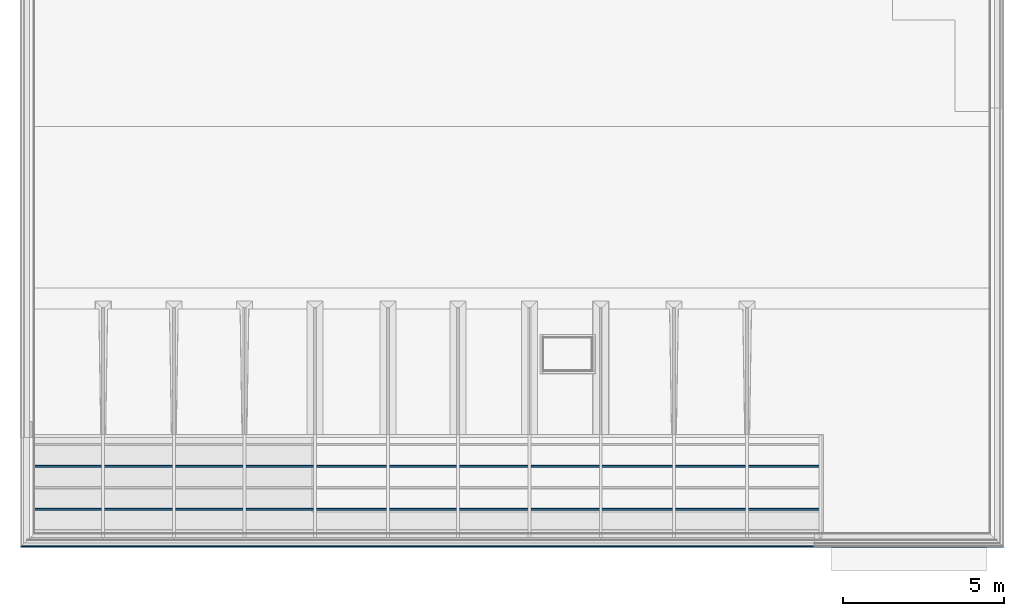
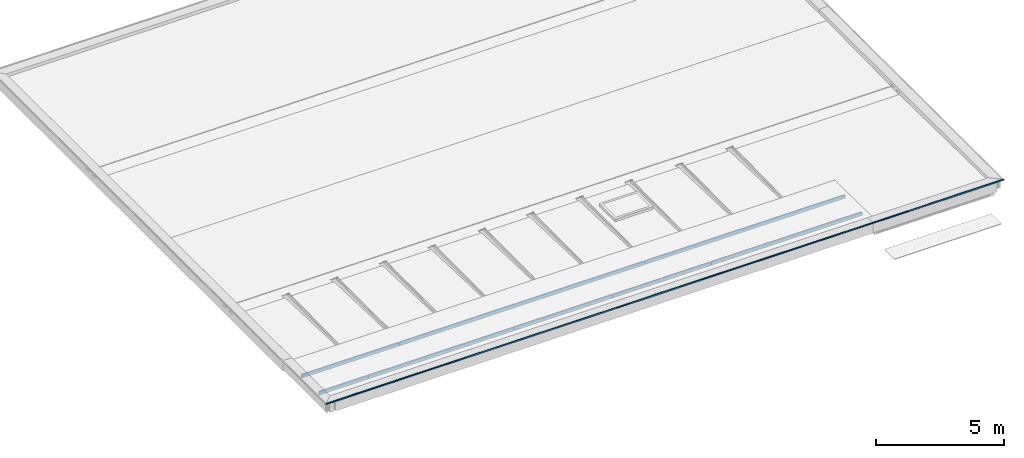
# One storey, part 2 of 16: 3 beams.
"""IFC2X3 building model written with IfcOpenShell, lengths in millimetres."""

from ifc_helpers import new_model, entity, si_unit, converted_unit, derived_unit, money_unit, direction, frame, origin_with_axes, place, context, subcontext, project, spatial, faceted_brep, material, type_object, element, save


model = new_model("IFC2X3")

# Units and contexts
model_context = context("Model", 3, precision=0.01, world=origin_with_axes(), true_north=direction((0.0, 1.0)))
body_context = subcontext(model_context, "Body", "Model", "MODEL_VIEW")
ifc_project = project(units=[si_unit("LENGTHUNIT", "METRE", prefix="MILLI"), si_unit("AREAUNIT", "SQUARE_METRE"), si_unit("VOLUMEUNIT", "CUBIC_METRE"), converted_unit("PLANEANGLEUNIT", "DEGREE", entity("IfcPlaneAngleMeasure", 0.0174532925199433), si_unit("PLANEANGLEUNIT", "RADIAN"), dimensions=[0, 0, 0, 0, 0, 0, 0]), money_unit("EUR"), converted_unit("TIMEUNIT", "Year", entity("IfcTimeMeasure", 31556926.0), si_unit("TIMEUNIT", "SECOND"), dimensions=[0, 0, 1, 0, 0, 0, 0]), si_unit("MASSUNIT", "GRAM", prefix="KILO"), si_unit("THERMODYNAMICTEMPERATUREUNIT", "DEGREE_CELSIUS"), si_unit("LUMINOUSINTENSITYUNIT", "LUMEN"), si_unit("ENERGYUNIT", "JOULE", prefix="MEGA"), derived_unit("THERMALCONDUCTANCEUNIT", [(si_unit("POWERUNIT", "WATT"), 1), (si_unit("LENGTHUNIT", "METRE"), -1), (si_unit("THERMODYNAMICTEMPERATUREUNIT", "KELVIN"), -1)]), derived_unit("SPECIFICHEATCAPACITYUNIT", [(si_unit("ENERGYUNIT", "JOULE"), 1), (si_unit("MASSUNIT", "GRAM", prefix="KILO"), -1), (si_unit("THERMODYNAMICTEMPERATUREUNIT", "KELVIN"), -1)]), derived_unit("MASSDENSITYUNIT", [(si_unit("MASSUNIT", "GRAM", prefix="KILO"), 1), (si_unit("VOLUMEUNIT", "CUBIC_METRE"), -1)])], contexts=[model_context])

# Site, building, storey
site_placement = place(None, origin_with_axes())
site = spatial("IfcSite", under=ifc_project, at=site_placement, Name="Site", CompositionType="ELEMENT")
building_placement = place(site_placement, origin_with_axes())
building = spatial("IfcBuilding", under=site, at=building_placement, Name="Naam gebouw", CompositionType="ELEMENT")
storey_placement = place(building_placement, frame((0.0, 0.0, 7820.0), z_axis=(0.0, 0.0, 1.0), x_axis=(1.0, 0.0, 0.0)))
storey = spatial("IfcBuildingStorey", under=building, at=storey_placement, Name="2e dakoverzicht", CompositionType="ELEMENT", Elevation=7820.0)

# Beams
ifc_material_1 = material(Name="Metaal - Aluminium")
beam_type_1 = type_object("IfcBeamType", Name="47 Daktrim 45 x 45", PredefinedType="BEAM")
beam_1_placement = place(storey_placement, frame((30189.99999999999, 3384.0, 525.0000000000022), z_axis=(0.0, 0.0, 1.0), x_axis=(0.0, 1.0, 0.0)))
element("IfcBeam", 1, at=beam_1_placement, inside=storey, type_object=beam_type_1, material=ifc_material_1, Name="28_Balk-x", ObjectType="BEAM", context=body_context, shape_type="Brep", body=[
    faceted_brep([(0.0, 0.0, 0.0), (0.0, 30479.9999831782, 0.0), (0.0, 30479.9999831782, -44.99999999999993), (0.0, 0.0, -44.99999999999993), (9.999999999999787, 10.00000000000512, 0.0), (10.00000000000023, 30469.99998318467, 0.0), (10.00000000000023, 30469.99998318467, -3.000000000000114), (3.000000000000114, 30476.99998318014, -3.000000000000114), (3.000000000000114, 30476.99998318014, -13.51955345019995), (45.0001052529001, 30434.99987795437, -13.51955345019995), (45.0001052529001, 30434.99987795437, -16.51955345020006), (3.000000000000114, 30476.99998318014, -16.51955345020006), (3.000000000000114, 30476.99998318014, -41.99999999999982), (10.00000000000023, 30469.99998318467, -41.99999999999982), (10.00000000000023, 30469.99998318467, -44.99999999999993), (10.00000000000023, 10.00000000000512, -44.99999999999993), (10.00000000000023, 10.00000000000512, -41.99999999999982), (3.000000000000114, 3.000000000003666, -41.99999999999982), (3.000000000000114, 3.000000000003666, -16.51955345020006), (45.0001052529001, 45.00010525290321, -16.51955345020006), (45.0001052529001, 45.00010525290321, -13.51955345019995), (3.000000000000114, 3.000000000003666, -13.51955345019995), (3.000000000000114, 3.000000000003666, -3.000000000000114), (9.999999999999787, 10.00000000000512, -3.000000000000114)], [[[0, 1, 2, 3]], [[4, 5, 1, 0]], [[2, 1, 5, 6, 7, 8, 9, 10, 11, 12, 13, 14]], [[3, 2, 14, 15]], [[4, 0, 3, 15, 16, 17, 18, 19, 20, 21, 22, 23]], [[23, 6, 5, 4]], [[22, 7, 6, 23]], [[21, 8, 7, 22]], [[20, 9, 8, 21]], [[19, 10, 9, 20]], [[18, 11, 10, 19]], [[17, 12, 11, 18]], [[16, 13, 12, 17]], [[15, 14, 13, 16]]]),
])
ifc_material_2 = material(Name="Hout C")
beam_type_2 = type_object("IfcBeamType", Name="Hout C 59 x 171", PredefinedType="BEAM")
beam_2_placement = place(storey_placement, frame((80.80000000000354, 5901.499999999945, 184.4999999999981), z_axis=(0.0, 0.0, 1.0), x_axis=(0.0, -1.0, 0.0)))
element("IfcBeam", 2, at=beam_2_placement, inside=storey, type_object=beam_type_2, material=ifc_material_2, Name="i HOUT_Regenwaterafvoer-x", ObjectType="BEAM", context=body_context, shape_type="Brep", body=[
    faceted_brep([(-29.49999999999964, 0.0, -83.49999999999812), (-29.49999999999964, 0.0, 74.50000000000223), (-29.49999999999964, 4.199984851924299, 74.50000000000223), (-29.49999999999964, 4.199984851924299, 85.50000000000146), (-29.49999999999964, 2161.199999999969, 85.50000000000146), (-29.49999999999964, 2161.199999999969, 77.50000000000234), (-29.49999999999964, 2204.04999999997, 77.50000000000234), (-29.49999999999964, 2204.04999999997, -85.49999999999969), (-29.49999999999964, 4.199984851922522, -85.49999999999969), (-29.49999999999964, 4.199984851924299, -83.49999999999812), (29.49999999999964, 0.0, -83.49999999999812), (29.49999999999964, 0.0, 74.50000000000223), (29.50000000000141, 4.199984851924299, 74.50000000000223), (29.50000000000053, 4.199984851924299, 85.50000000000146), (29.49999999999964, 2161.199999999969, 85.50000000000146), (29.50000000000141, 2161.199999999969, 77.50000000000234), (29.50000000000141, 2204.04999999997, 77.50000000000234), (29.49999999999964, 2204.04999999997, -85.49999999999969), (29.49999999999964, 4.199984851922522, -85.49999999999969), (29.50000000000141, 4.199984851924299, -83.49999999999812)], [[[0, 1, 2, 3, 4, 5, 6, 7, 8, 9]], [[10, 11, 1, 0]], [[12, 2, 1, 11]], [[12, 13, 3, 2]], [[4, 3, 13, 14]], [[14, 15, 5, 4]], [[15, 16, 6, 5]], [[16, 17, 7, 6]], [[17, 18, 8, 7]], [[19, 9, 8, 18]], [[10, 0, 9, 19]], [[13, 12, 11, 10, 19, 18, 17, 16, 15, 14]]]),
    faceted_brep([(-29.50000000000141, 22198.03250151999, 85.50000000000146), (-29.50000000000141, 24373.69903999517, 85.50000000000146), (-29.50000000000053, 24373.69903999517, 77.50000000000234), (-29.50000000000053, 24416.54903999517, 77.50000000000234), (-29.49999999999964, 24416.54903999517, -85.49999999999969), (-29.50000000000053, 22155.18250151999, -85.49999999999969), (-29.50000000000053, 22155.18250151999, 77.50000000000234), (-29.50000000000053, 22198.03250151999, 77.50000000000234), (29.49999999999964, 22198.03250151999, 85.50000000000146), (29.49999999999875, 24373.69903999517, 85.50000000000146), (29.49999999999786, 24373.69903999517, 77.50000000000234), (29.49999999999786, 24416.54903999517, 77.50000000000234), (29.49999999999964, 24416.54903999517, -85.49999999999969), (29.49999999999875, 22155.18250151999, -85.49999999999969), (29.49999999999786, 22155.18250151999, 77.50000000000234), (29.49999999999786, 22198.03250151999, 77.50000000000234)], [[[0, 1, 2, 3, 4, 5, 6, 7]], [[8, 9, 1, 0]], [[10, 2, 1, 9]], [[11, 3, 2, 10]], [[12, 4, 3, 11]], [[5, 4, 12, 13]], [[13, 14, 6, 5]], [[14, 15, 7, 6]], [[7, 15, 8, 0]], [[11, 10, 9, 8, 15, 14, 13, 12]]]),
    faceted_brep([(-29.50000000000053, 19931.36596304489, 85.50000000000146), (-29.50000000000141, 22107.03250151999, 85.50000000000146), (-29.50000000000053, 22107.03250151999, 77.50000000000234), (-29.50000000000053, 22149.88250151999, 77.50000000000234), (-29.50000000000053, 22149.88250151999, -85.49999999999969), (-29.49999999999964, 19888.51596304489, -85.49999999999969), (-29.49999999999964, 19888.51596304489, 77.50000000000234), (-29.49999999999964, 19931.36596304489, 77.50000000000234), (29.49999999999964, 19931.36596304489, 85.50000000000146), (29.49999999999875, 22107.03250151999, 85.50000000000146), (29.49999999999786, 22107.03250151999, 77.50000000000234), (29.49999999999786, 22149.88250151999, 77.50000000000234), (29.49999999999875, 22149.88250151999, -85.49999999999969), (29.49999999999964, 19888.51596304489, -85.49999999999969), (29.49999999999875, 19888.51596304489, 77.50000000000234), (29.49999999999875, 19931.36596304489, 77.50000000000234)], [[[0, 1, 2, 3, 4, 5, 6, 7]], [[8, 9, 1, 0]], [[10, 2, 1, 9]], [[11, 3, 2, 10]], [[12, 4, 3, 11]], [[5, 4, 12, 13]], [[13, 14, 6, 5]], [[14, 15, 7, 6]], [[7, 15, 8, 0]], [[11, 10, 9, 8, 15, 14, 13, 12]]]),
    faceted_brep([(-29.50000000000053, 17664.6994245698, 85.50000000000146), (-29.50000000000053, 19840.36596304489, 85.50000000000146), (-29.49999999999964, 19840.36596304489, 77.50000000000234), (-29.49999999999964, 19883.2159630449, 77.50000000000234), (-29.49999999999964, 19883.2159630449, -85.49999999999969), (-29.50000000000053, 17621.8494245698, -85.49999999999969), (-29.49999999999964, 17621.8494245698, 77.50000000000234), (-29.49999999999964, 17664.6994245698, 77.50000000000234), (29.49999999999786, 17664.6994245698, 85.50000000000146), (29.49999999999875, 19840.36596304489, 85.50000000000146), (29.49999999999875, 19840.36596304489, 77.50000000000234), (29.49999999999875, 19883.2159630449, 77.50000000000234), (29.49999999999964, 19883.2159630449, -85.49999999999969), (29.49999999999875, 17621.8494245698, -85.49999999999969), (29.49999999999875, 17621.8494245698, 77.50000000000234), (29.49999999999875, 17664.6994245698, 77.50000000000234)], [[[0, 1, 2, 3, 4, 5, 6, 7]], [[8, 9, 1, 0]], [[10, 2, 1, 9]], [[11, 3, 2, 10]], [[12, 4, 3, 11]], [[5, 4, 12, 13]], [[13, 14, 6, 5]], [[14, 15, 7, 6]], [[7, 15, 8, 0]], [[11, 10, 9, 8, 15, 14, 13, 12]]]),
    faceted_brep([(-29.50000000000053, 15452.19956842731, 85.50000000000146), (-29.50000000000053, 17573.6994245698, 85.50000000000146), (-29.49999999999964, 17573.6994245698, 77.50000000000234), (-29.49999999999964, 17616.5494245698, 77.50000000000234), (-29.50000000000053, 17616.5494245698, -85.49999999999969), (-29.50000000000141, 15409.34956842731, -85.49999999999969), (-29.50000000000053, 15409.34956842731, 77.50000000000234), (-29.50000000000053, 15452.19956842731, 77.50000000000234), (29.49999999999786, 15452.19956842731, 85.50000000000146), (29.49999999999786, 17573.6994245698, 85.50000000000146), (29.49999999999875, 17573.6994245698, 77.50000000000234), (29.49999999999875, 17616.5494245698, 77.50000000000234), (29.49999999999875, 17616.5494245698, -85.49999999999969), (29.49999999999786, 15409.34956842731, -85.49999999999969), (29.49999999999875, 15409.34956842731, 77.50000000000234), (29.49999999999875, 15452.19956842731, 77.50000000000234)], [[[0, 1, 2, 3, 4, 5, 6, 7]], [[8, 9, 1, 0]], [[10, 2, 1, 9]], [[11, 3, 2, 10]], [[12, 4, 3, 11]], [[5, 4, 12, 13]], [[13, 14, 6, 5]], [[14, 15, 7, 6]], [[7, 15, 8, 0]], [[11, 10, 9, 8, 15, 14, 13, 12]]]),
    faceted_brep([(-29.49999999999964, 13239.69971228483, 85.50000000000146), (-29.50000000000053, 15361.19956842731, 85.50000000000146), (-29.50000000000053, 15361.19956842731, 77.50000000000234), (-29.50000000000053, 15404.04956842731, 77.50000000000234), (-29.50000000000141, 15404.04956842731, -85.49999999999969), (-29.50000000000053, 13196.84971228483, -85.49999999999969), (-29.49999999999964, 13196.84971228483, 77.50000000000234), (-29.49999999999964, 13239.69971228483, 77.50000000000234), (29.49999999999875, 13239.69971228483, 85.50000000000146), (29.49999999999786, 15361.19956842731, 85.50000000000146), (29.49999999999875, 15361.19956842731, 77.50000000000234), (29.49999999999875, 15404.04956842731, 77.50000000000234), (29.49999999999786, 15404.04956842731, -85.49999999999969), (29.49999999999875, 13196.84971228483, -85.49999999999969), (29.49999999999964, 13196.84971228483, 77.50000000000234), (29.49999999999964, 13239.69971228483, 77.50000000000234)], [[[0, 1, 2, 3, 4, 5, 6, 7]], [[8, 9, 1, 0]], [[10, 2, 1, 9]], [[11, 3, 2, 10]], [[12, 4, 3, 11]], [[5, 4, 12, 13]], [[13, 14, 6, 5]], [[14, 15, 7, 6]], [[7, 15, 8, 0]], [[11, 10, 9, 8, 15, 14, 13, 12]]]),
    faceted_brep([(-29.49999999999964, 11072.69985614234, 85.50000000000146), (-29.49999999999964, 13148.69971228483, 85.50000000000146), (-29.49999999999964, 13148.69971228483, 77.50000000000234), (-29.49999999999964, 13191.54971228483, 77.50000000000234), (-29.50000000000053, 13191.54971228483, -85.49999999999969), (-29.50000000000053, 11029.84985614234, -85.49999999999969), (-29.49999999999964, 11029.84985614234, 77.50000000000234), (-29.49999999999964, 11072.69985614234, 77.50000000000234), (29.49999999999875, 11072.69985614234, 85.50000000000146), (29.49999999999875, 13148.69971228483, 85.50000000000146), (29.49999999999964, 13148.69971228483, 77.50000000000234), (29.49999999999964, 13191.54971228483, 77.50000000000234), (29.49999999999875, 13191.54971228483, -85.49999999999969), (29.49999999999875, 11029.84985614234, -85.49999999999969), (29.49999999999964, 11029.84985614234, 77.50000000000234), (29.49999999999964, 11072.69985614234, 77.50000000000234)], [[[0, 1, 2, 3, 4, 5, 6, 7]], [[8, 9, 1, 0]], [[10, 2, 1, 9]], [[11, 3, 2, 10]], [[12, 4, 3, 11]], [[5, 4, 12, 13]], [[13, 14, 6, 5]], [[14, 15, 7, 6]], [[7, 15, 8, 0]], [[11, 10, 9, 8, 15, 14, 13, 12]]]),
    faceted_brep([(-29.49999999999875, 8814.699999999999, 85.50000000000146), (-29.49999999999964, 10981.69985614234, 85.50000000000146), (-29.49999999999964, 10981.69985614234, 77.50000000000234), (-29.49999999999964, 11024.54985614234, 77.50000000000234), (-29.50000000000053, 11024.54985614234, -85.49999999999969), (-29.49999999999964, 8771.849999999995, -85.49999999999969), (-29.49999999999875, 8771.849999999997, 77.50000000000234), (-29.49999999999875, 8814.699999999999, 77.50000000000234), (29.49999999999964, 8814.699999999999, 85.50000000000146), (29.49999999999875, 10981.69985614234, 85.50000000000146), (29.49999999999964, 10981.69985614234, 77.50000000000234), (29.49999999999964, 11024.54985614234, 77.50000000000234), (29.49999999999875, 11024.54985614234, -85.49999999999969), (29.49999999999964, 8771.849999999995, -85.49999999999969), (29.50000000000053, 8771.849999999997, 77.50000000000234), (29.50000000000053, 8814.699999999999, 77.50000000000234)], [[[0, 1, 2, 3, 4, 5, 6, 7]], [[8, 9, 1, 0]], [[10, 2, 1, 9]], [[11, 3, 2, 10]], [[12, 4, 3, 11]], [[5, 4, 12, 13]], [[13, 14, 6, 5]], [[14, 15, 7, 6]], [[7, 15, 8, 0]], [[11, 10, 9, 8, 15, 14, 13, 12]]]),
    faceted_brep([(-29.50000000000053, 4439.699999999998, 85.50000000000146), (-29.50000000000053, 6536.199999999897, 85.50000000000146), (-29.50000000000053, 6536.199999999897, 77.50000000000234), (-29.50000000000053, 6579.049999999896, 77.50000000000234), (-29.49999999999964, 6579.049999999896, -85.49999999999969), (-29.50000000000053, 4396.849999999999, -85.49999999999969), (-29.50000000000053, 4396.849999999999, 77.50000000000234), (-29.50000000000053, 4439.699999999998, 77.50000000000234), (29.49999999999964, 4439.699999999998, 85.50000000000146), (29.49999999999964, 6536.199999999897, 85.50000000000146), (29.50000000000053, 6536.199999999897, 77.50000000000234), (29.50000000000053, 6579.049999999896, 77.50000000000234), (29.49999999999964, 6579.049999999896, -85.49999999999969), (29.49999999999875, 4396.849999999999, -85.49999999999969), (29.50000000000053, 4396.849999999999, 77.50000000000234), (29.50000000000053, 4439.699999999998, 77.50000000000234)], [[[0, 1, 2, 3, 4, 5, 6, 7]], [[8, 9, 1, 0]], [[10, 2, 1, 9]], [[11, 3, 2, 10]], [[12, 4, 3, 11]], [[5, 4, 12, 13]], [[13, 14, 6, 5]], [[14, 15, 7, 6]], [[7, 15, 8, 0]], [[11, 10, 9, 8, 15, 14, 13, 12]]]),
    faceted_brep([(-29.49999999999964, 6584.349999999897, -85.49999999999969), (-29.50000000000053, 6584.349999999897, 77.50000000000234), (-29.50000000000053, 6627.199999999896, 77.50000000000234), (-29.49999999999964, 6627.199999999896, 85.50000000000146), (-29.49999999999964, 8723.699999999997, 85.50000000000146), (-29.49999999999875, 8723.699999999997, 77.50000000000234), (-29.49999999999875, 8766.55, 77.50000000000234), (-29.49999999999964, 8766.55, -85.49999999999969), (29.50000000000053, 6584.349999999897, 77.50000000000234), (29.49999999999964, 6584.349999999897, -85.49999999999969), (29.50000000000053, 6627.199999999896, 77.50000000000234), (29.49999999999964, 6627.199999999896, 85.50000000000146), (29.49999999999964, 8723.699999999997, 85.50000000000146), (29.50000000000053, 8723.699999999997, 77.50000000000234), (29.50000000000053, 8766.55, 77.50000000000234), (29.49999999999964, 8766.55, -85.49999999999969)], [[[0, 1, 2, 3, 4, 5, 6, 7]], [[8, 1, 0, 9]], [[10, 2, 1, 8]], [[10, 11, 3, 2]], [[4, 3, 11, 12]], [[5, 4, 12, 13]], [[6, 5, 13, 14]], [[7, 6, 14, 15]], [[15, 9, 0, 7]], [[10, 8, 9, 15, 14, 13, 12, 11]]]),
    faceted_brep([(-29.49999999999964, 2252.19999999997, 85.50000000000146), (-29.50000000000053, 4348.699999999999, 85.50000000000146), (-29.50000000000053, 4348.699999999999, 77.50000000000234), (-29.50000000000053, 4391.549999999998, 77.50000000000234), (-29.50000000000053, 4391.549999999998, -85.49999999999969), (-29.49999999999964, 2209.349999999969, -85.49999999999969), (-29.49999999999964, 2209.349999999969, 77.50000000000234), (-29.49999999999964, 2252.19999999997, 77.50000000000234), (29.50000000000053, 2252.19999999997, 85.50000000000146), (29.49999999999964, 4348.699999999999, 85.50000000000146), (29.50000000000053, 4348.699999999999, 77.50000000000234), (29.50000000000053, 4391.549999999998, 77.50000000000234), (29.49999999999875, 4391.549999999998, -85.49999999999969), (29.49999999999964, 2209.349999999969, -85.49999999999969), (29.50000000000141, 2209.349999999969, 77.50000000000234), (29.50000000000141, 2252.19999999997, 77.50000000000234)], [[[0, 1, 2, 3, 4, 5, 6, 7]], [[8, 9, 1, 0]], [[10, 2, 1, 9]], [[11, 3, 2, 10]], [[12, 4, 3, 11]], [[5, 4, 12, 13]], [[13, 14, 6, 5]], [[14, 15, 7, 6]], [[7, 15, 8, 0]], [[11, 10, 9, 8, 15, 14, 13, 12]]]),
])
beam_3_placement = place(storey_placement, frame((80.80000000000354, 4563.499999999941, 184.4999999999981), z_axis=(0.0, 0.0, 1.0), x_axis=(0.0, -1.0, 0.0)))
element("IfcBeam", 3, at=beam_3_placement, inside=storey, type_object=beam_type_2, material=ifc_material_2, Name="i HOUT_Regenwaterafvoer-x", ObjectType="BEAM", context=body_context, shape_type="Brep", body=[
    faceted_brep([(-29.49999999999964, 0.0, -83.49999999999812), (-29.49999999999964, 0.0, 74.50000000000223), (-29.49999999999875, 4.199984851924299, 74.50000000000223), (-29.49999999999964, 4.199984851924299, 85.50000000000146), (-29.49999999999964, 2161.199999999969, 85.50000000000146), (-29.49999999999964, 2161.199999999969, 77.50000000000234), (-29.49999999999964, 2204.04999999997, 77.50000000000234), (-29.50000000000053, 2204.04999999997, -85.49999999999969), (-29.49999999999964, 4.199984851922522, -85.49999999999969), (-29.49999999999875, 4.199984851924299, -83.49999999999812), (29.49999999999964, 0.0, -83.49999999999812), (29.49999999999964, 0.0, 74.50000000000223), (29.50000000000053, 4.199984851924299, 74.50000000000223), (29.49999999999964, 4.199984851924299, 85.50000000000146), (29.49999999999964, 2161.199999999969, 85.50000000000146), (29.50000000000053, 2161.199999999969, 77.50000000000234), (29.50000000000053, 2204.04999999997, 77.50000000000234), (29.49999999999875, 2204.04999999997, -85.49999999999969), (29.49999999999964, 4.199984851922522, -85.49999999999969), (29.50000000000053, 4.199984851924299, -83.49999999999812)], [[[0, 1, 2, 3, 4, 5, 6, 7, 8, 9]], [[10, 11, 1, 0]], [[12, 2, 1, 11]], [[12, 13, 3, 2]], [[4, 3, 13, 14]], [[14, 15, 5, 4]], [[15, 16, 6, 5]], [[16, 17, 7, 6]], [[17, 18, 8, 7]], [[19, 9, 8, 18]], [[10, 0, 9, 19]], [[13, 12, 11, 10, 19, 18, 17, 16, 15, 14]]]),
    faceted_brep([(-29.50000000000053, 22198.03250151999, 85.50000000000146), (-29.50000000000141, 24373.69903999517, 85.50000000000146), (-29.49999999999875, 24373.69903999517, 77.50000000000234), (-29.49999999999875, 24416.54903999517, 77.50000000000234), (-29.49999999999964, 24416.54903999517, -85.49999999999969), (-29.49999999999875, 22155.18250151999, -85.49999999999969), (-29.49999999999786, 22155.18250151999, 77.50000000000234), (-29.49999999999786, 22198.03250151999, 77.50000000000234), (29.49999999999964, 22198.03250151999, 85.50000000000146), (29.49999999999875, 24373.69903999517, 85.50000000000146), (29.50000000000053, 24373.69903999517, 77.50000000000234), (29.50000000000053, 24416.54903999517, 77.50000000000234), (29.49999999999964, 24416.54903999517, -85.49999999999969), (29.50000000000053, 22155.18250151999, -85.49999999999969), (29.50000000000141, 22155.18250151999, 77.50000000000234), (29.50000000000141, 22198.03250151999, 77.50000000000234)], [[[0, 1, 2, 3, 4, 5, 6, 7]], [[8, 9, 1, 0]], [[10, 2, 1, 9]], [[11, 3, 2, 10]], [[12, 4, 3, 11]], [[5, 4, 12, 13]], [[13, 14, 6, 5]], [[14, 15, 7, 6]], [[7, 15, 8, 0]], [[11, 10, 9, 8, 15, 14, 13, 12]]]),
    faceted_brep([(-29.49999999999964, 19931.36596304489, 85.50000000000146), (-29.50000000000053, 22107.03250151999, 85.50000000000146), (-29.49999999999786, 22107.03250151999, 77.50000000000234), (-29.49999999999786, 22149.88250151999, 77.50000000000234), (-29.49999999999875, 22149.88250151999, -85.49999999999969), (-29.49999999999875, 19888.51596304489, -85.49999999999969), (-29.49999999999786, 19888.51596304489, 77.50000000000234), (-29.49999999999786, 19931.36596304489, 77.50000000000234), (29.50000000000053, 19931.36596304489, 85.50000000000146), (29.49999999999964, 22107.03250151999, 85.50000000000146), (29.50000000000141, 22107.03250151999, 77.50000000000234), (29.50000000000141, 22149.88250151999, 77.50000000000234), (29.50000000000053, 22149.88250151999, -85.49999999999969), (29.50000000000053, 19888.51596304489, -85.49999999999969), (29.50000000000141, 19888.51596304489, 77.50000000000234), (29.50000000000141, 19931.36596304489, 77.50000000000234)], [[[0, 1, 2, 3, 4, 5, 6, 7]], [[8, 9, 1, 0]], [[10, 2, 1, 9]], [[11, 3, 2, 10]], [[12, 4, 3, 11]], [[5, 4, 12, 13]], [[13, 14, 6, 5]], [[14, 15, 7, 6]], [[7, 15, 8, 0]], [[11, 10, 9, 8, 15, 14, 13, 12]]]),
    faceted_brep([(-29.49999999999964, 17664.6994245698, 85.50000000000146), (-29.49999999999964, 19840.36596304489, 85.50000000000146), (-29.49999999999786, 19840.36596304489, 77.50000000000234), (-29.49999999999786, 19883.2159630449, 77.50000000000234), (-29.49999999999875, 19883.2159630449, -85.49999999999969), (-29.49999999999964, 17621.8494245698, -85.49999999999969), (-29.49999999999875, 17621.8494245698, 77.50000000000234), (-29.49999999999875, 17664.6994245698, 77.50000000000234), (29.49999999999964, 17664.6994245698, 85.50000000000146), (29.50000000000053, 19840.36596304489, 85.50000000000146), (29.50000000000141, 19840.36596304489, 77.50000000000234), (29.50000000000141, 19883.2159630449, 77.50000000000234), (29.50000000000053, 19883.2159630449, -85.49999999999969), (29.49999999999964, 17621.8494245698, -85.49999999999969), (29.50000000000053, 17621.8494245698, 77.50000000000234), (29.50000000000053, 17664.6994245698, 77.50000000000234)], [[[0, 1, 2, 3, 4, 5, 6, 7]], [[8, 9, 1, 0]], [[10, 2, 1, 9]], [[11, 3, 2, 10]], [[12, 4, 3, 11]], [[5, 4, 12, 13]], [[13, 14, 6, 5]], [[14, 15, 7, 6]], [[7, 15, 8, 0]], [[11, 10, 9, 8, 15, 14, 13, 12]]]),
    faceted_brep([(-29.49999999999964, 15452.19956842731, 85.50000000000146), (-29.49999999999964, 17573.6994245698, 85.50000000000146), (-29.49999999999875, 17573.6994245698, 77.50000000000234), (-29.49999999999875, 17616.5494245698, 77.50000000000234), (-29.49999999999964, 17616.5494245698, -85.49999999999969), (-29.49999999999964, 15409.34956842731, -85.49999999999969), (-29.49999999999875, 15409.34956842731, 77.50000000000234), (-29.49999999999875, 15452.19956842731, 77.50000000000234), (29.49999999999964, 15452.19956842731, 85.50000000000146), (29.49999999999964, 17573.6994245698, 85.50000000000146), (29.50000000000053, 17573.6994245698, 77.50000000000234), (29.50000000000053, 17616.5494245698, 77.50000000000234), (29.49999999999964, 17616.5494245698, -85.49999999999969), (29.49999999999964, 15409.34956842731, -85.49999999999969), (29.50000000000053, 15409.34956842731, 77.50000000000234), (29.50000000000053, 15452.19956842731, 77.50000000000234)], [[[0, 1, 2, 3, 4, 5, 6, 7]], [[8, 9, 1, 0]], [[10, 2, 1, 9]], [[11, 3, 2, 10]], [[12, 4, 3, 11]], [[5, 4, 12, 13]], [[13, 14, 6, 5]], [[14, 15, 7, 6]], [[7, 15, 8, 0]], [[11, 10, 9, 8, 15, 14, 13, 12]]]),
    faceted_brep([(-29.49999999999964, 13239.69971228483, 85.50000000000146), (-29.49999999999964, 15361.19956842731, 85.50000000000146), (-29.49999999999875, 15361.19956842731, 77.50000000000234), (-29.49999999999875, 15404.04956842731, 77.50000000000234), (-29.49999999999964, 15404.04956842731, -85.49999999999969), (-29.49999999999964, 13196.84971228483, -85.49999999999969), (-29.49999999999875, 13196.84971228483, 77.50000000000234), (-29.49999999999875, 13239.69971228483, 77.50000000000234), (29.49999999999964, 13239.69971228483, 85.50000000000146), (29.49999999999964, 15361.19956842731, 85.50000000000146), (29.50000000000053, 15361.19956842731, 77.50000000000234), (29.50000000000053, 15404.04956842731, 77.50000000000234), (29.49999999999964, 15404.04956842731, -85.49999999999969), (29.49999999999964, 13196.84971228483, -85.49999999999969), (29.50000000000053, 13196.84971228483, 77.50000000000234), (29.50000000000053, 13239.69971228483, 77.50000000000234)], [[[0, 1, 2, 3, 4, 5, 6, 7]], [[8, 9, 1, 0]], [[10, 2, 1, 9]], [[11, 3, 2, 10]], [[12, 4, 3, 11]], [[5, 4, 12, 13]], [[13, 14, 6, 5]], [[14, 15, 7, 6]], [[7, 15, 8, 0]], [[11, 10, 9, 8, 15, 14, 13, 12]]]),
    faceted_brep([(-29.49999999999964, 11072.69985614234, 85.50000000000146), (-29.49999999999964, 13148.69971228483, 85.50000000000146), (-29.49999999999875, 13148.69971228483, 77.50000000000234), (-29.49999999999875, 13191.54971228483, 77.50000000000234), (-29.49999999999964, 13191.54971228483, -85.49999999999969), (-29.49999999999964, 11029.84985614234, -85.49999999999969), (-29.49999999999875, 11029.84985614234, 77.50000000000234), (-29.49999999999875, 11072.69985614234, 77.50000000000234), (29.49999999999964, 11072.69985614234, 85.50000000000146), (29.49999999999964, 13148.69971228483, 85.50000000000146), (29.50000000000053, 13148.69971228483, 77.50000000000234), (29.50000000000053, 13191.54971228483, 77.50000000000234), (29.49999999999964, 13191.54971228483, -85.49999999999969), (29.49999999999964, 11029.84985614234, -85.49999999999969), (29.50000000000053, 11029.84985614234, 77.50000000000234), (29.50000000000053, 11072.69985614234, 77.50000000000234)], [[[0, 1, 2, 3, 4, 5, 6, 7]], [[8, 9, 1, 0]], [[10, 2, 1, 9]], [[11, 3, 2, 10]], [[12, 4, 3, 11]], [[5, 4, 12, 13]], [[13, 14, 6, 5]], [[14, 15, 7, 6]], [[7, 15, 8, 0]], [[11, 10, 9, 8, 15, 14, 13, 12]]]),
    faceted_brep([(-29.49999999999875, 8814.699999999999, 85.50000000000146), (-29.49999999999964, 10981.69985614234, 85.50000000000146), (-29.49999999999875, 10981.69985614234, 77.50000000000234), (-29.49999999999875, 11024.54985614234, 77.50000000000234), (-29.49999999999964, 11024.54985614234, -85.49999999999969), (-29.49999999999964, 8771.849999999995, -85.49999999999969), (-29.49999999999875, 8771.849999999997, 77.50000000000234), (-29.49999999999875, 8814.699999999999, 77.50000000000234), (29.49999999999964, 8814.699999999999, 85.50000000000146), (29.49999999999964, 10981.69985614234, 85.50000000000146), (29.50000000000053, 10981.69985614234, 77.50000000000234), (29.50000000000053, 11024.54985614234, 77.50000000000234), (29.49999999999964, 11024.54985614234, -85.49999999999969), (29.49999999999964, 8771.849999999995, -85.49999999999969), (29.50000000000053, 8771.849999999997, 77.50000000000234), (29.50000000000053, 8814.699999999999, 77.50000000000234)], [[[0, 1, 2, 3, 4, 5, 6, 7]], [[8, 9, 1, 0]], [[10, 2, 1, 9]], [[11, 3, 2, 10]], [[12, 4, 3, 11]], [[5, 4, 12, 13]], [[13, 14, 6, 5]], [[14, 15, 7, 6]], [[7, 15, 8, 0]], [[11, 10, 9, 8, 15, 14, 13, 12]]]),
    faceted_brep([(-29.50000000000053, 4439.699999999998, 85.50000000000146), (-29.49999999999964, 6536.199999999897, 85.50000000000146), (-29.49999999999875, 6536.199999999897, 77.50000000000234), (-29.49999999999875, 6579.049999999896, 77.50000000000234), (-29.49999999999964, 6579.049999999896, -85.49999999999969), (-29.50000000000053, 4396.849999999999, -85.49999999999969), (-29.49999999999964, 4396.849999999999, 77.50000000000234), (-29.49999999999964, 4439.699999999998, 77.50000000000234), (29.49999999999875, 4439.699999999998, 85.50000000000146), (29.49999999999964, 6536.199999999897, 85.50000000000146), (29.50000000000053, 6536.199999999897, 77.50000000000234), (29.50000000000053, 6579.049999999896, 77.50000000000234), (29.49999999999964, 6579.049999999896, -85.49999999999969), (29.49999999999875, 4396.849999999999, -85.49999999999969), (29.49999999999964, 4396.849999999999, 77.50000000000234), (29.49999999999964, 4439.699999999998, 77.50000000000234)], [[[0, 1, 2, 3, 4, 5, 6, 7]], [[8, 9, 1, 0]], [[10, 2, 1, 9]], [[11, 3, 2, 10]], [[12, 4, 3, 11]], [[5, 4, 12, 13]], [[13, 14, 6, 5]], [[14, 15, 7, 6]], [[7, 15, 8, 0]], [[11, 10, 9, 8, 15, 14, 13, 12]]]),
    faceted_brep([(-29.49999999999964, 6584.349999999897, -85.49999999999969), (-29.49999999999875, 6584.349999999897, 77.50000000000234), (-29.49999999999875, 6627.199999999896, 77.50000000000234), (-29.49999999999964, 6627.199999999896, 85.50000000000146), (-29.49999999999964, 8723.699999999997, 85.50000000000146), (-29.49999999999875, 8723.699999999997, 77.50000000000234), (-29.49999999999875, 8766.55, 77.50000000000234), (-29.49999999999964, 8766.55, -85.49999999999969), (29.50000000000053, 6584.349999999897, 77.50000000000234), (29.49999999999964, 6584.349999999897, -85.49999999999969), (29.50000000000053, 6627.199999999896, 77.50000000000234), (29.49999999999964, 6627.199999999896, 85.50000000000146), (29.49999999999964, 8723.699999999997, 85.50000000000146), (29.50000000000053, 8723.699999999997, 77.50000000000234), (29.50000000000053, 8766.55, 77.50000000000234), (29.49999999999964, 8766.55, -85.49999999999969)], [[[0, 1, 2, 3, 4, 5, 6, 7]], [[8, 1, 0, 9]], [[10, 2, 1, 8]], [[10, 11, 3, 2]], [[4, 3, 11, 12]], [[5, 4, 12, 13]], [[6, 5, 13, 14]], [[7, 6, 14, 15]], [[15, 9, 0, 7]], [[10, 8, 9, 15, 14, 13, 12, 11]]]),
    faceted_brep([(-29.49999999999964, 2252.19999999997, 85.50000000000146), (-29.50000000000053, 4348.699999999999, 85.50000000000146), (-29.49999999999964, 4348.699999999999, 77.50000000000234), (-29.49999999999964, 4391.549999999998, 77.50000000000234), (-29.50000000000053, 4391.549999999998, -85.49999999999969), (-29.50000000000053, 2209.349999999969, -85.49999999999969), (-29.49999999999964, 2209.349999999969, 77.50000000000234), (-29.49999999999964, 2252.19999999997, 77.50000000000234), (29.49999999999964, 2252.19999999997, 85.50000000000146), (29.49999999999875, 4348.699999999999, 85.50000000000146), (29.49999999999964, 4348.699999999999, 77.50000000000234), (29.49999999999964, 4391.549999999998, 77.50000000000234), (29.49999999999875, 4391.549999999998, -85.49999999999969), (29.49999999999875, 2209.349999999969, -85.49999999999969), (29.50000000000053, 2209.349999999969, 77.50000000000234), (29.50000000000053, 2252.19999999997, 77.50000000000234)], [[[0, 1, 2, 3, 4, 5, 6, 7]], [[8, 9, 1, 0]], [[10, 2, 1, 9]], [[11, 3, 2, 10]], [[12, 4, 3, 11]], [[5, 4, 12, 13]], [[13, 14, 6, 5]], [[14, 15, 7, 6]], [[7, 15, 8, 0]], [[11, 10, 9, 8, 15, 14, 13, 12]]]),
])

save(model, "model.ifc")
